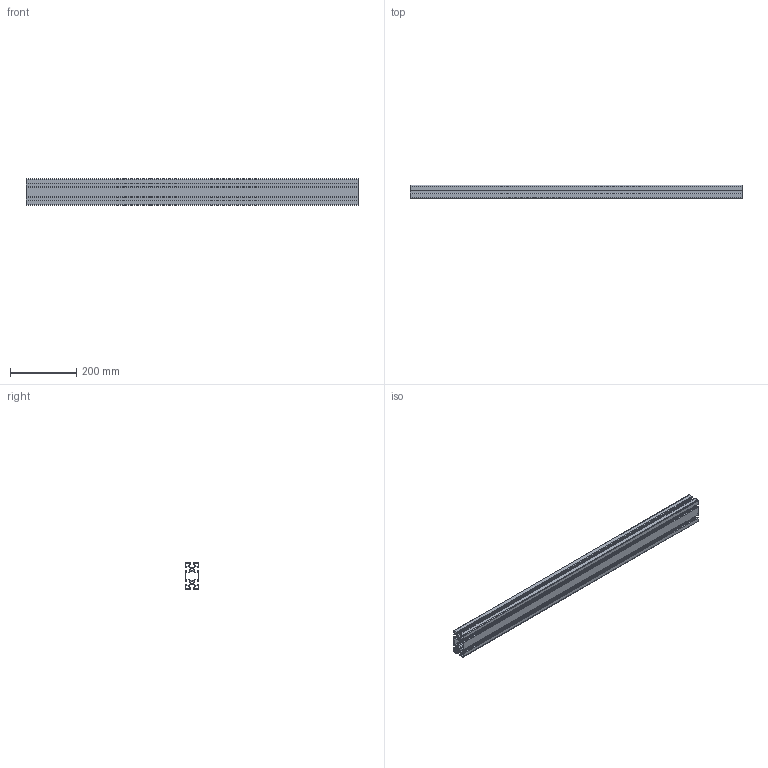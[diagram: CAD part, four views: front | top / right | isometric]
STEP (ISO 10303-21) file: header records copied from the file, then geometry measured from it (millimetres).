
FILE_DESCRIPTION (( 'STEP AP203' ), '1' );
FILE_NAME ('F48K.step', '2017-04-26T04:11:48', ( 'sr-d11' ), ( 'MouseComputer PC' ), 'SwSTEP 2.0', 'SolidWorks 2014', '' );
FILE_SCHEMA (( 'CONFIG_CONTROL_DESIGN' ));
Length unit declared in the file: millimetre
Products named in the file (1): F48K
Bounding box: 1000 x 40 x 80 mm (x, y, z)
Volume: 739129 mm3; surface area: 814892.4 mm2
Topology: 1 solids, 1 shells, 272 faces, 810 edges, 540 vertices
Faces by surface type: cylinder 154, plane 118
Entity records: 9347 total; most frequent: DIRECTION 1664, CARTESIAN_POINT 1623, ORIENTED_EDGE 1620, EDGE_CURVE 810, AXIS2_PLACEMENT_3D 581, VERTEX_POINT 540, LINE 502, VECTOR 502
